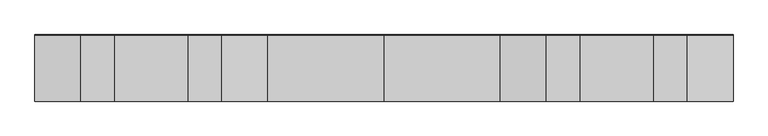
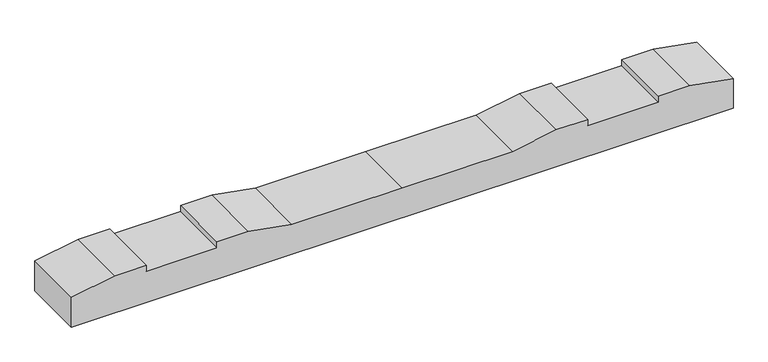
"""IFC4 building model written with IfcOpenShell, lengths in millimetres: proxy geometry, 轨枕-立面角度 : 轨枕-立面角度."""

from ifc_helpers import new_model, si_unit, frame, origin, place, context, project, spatial, polyline, outline, extrude, source, transform, mapped, element, save


def generic_models_72948029(model_context):
    return source(origin(), model_context, "Body", "SweptSolid", [
        extrude(outline(polyline([(0.0, 0.0), (2099.7669328, 0.0), (2099.7669328, -100.0206889), (1961.8834664, -124.4999999), (1861.8834664, -124.4999999), (1861.8834664, -104.5), (1637.8834664, -104.5), (1637.8834664, -124.4999999), (1537.8834664, -124.4999999), (1399.8834664, -100.0), (1049.8834664, -100.0), (699.8834664, -100.0), (561.8834664, -124.4999999), (461.8834664, -124.4999999), (461.8834664, -104.5), (237.8834664, -104.5), (237.8834664, -124.4999999), (137.8834664, -124.4999999), (0.0, -100.0206889), (0.0, 0.0)])), frame((-1049.8834664, -99.6293864, -104.8533994), z_axis=(0.0, 0.9999937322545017, 0.003540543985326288), x_axis=(1.0, 0.0, 0.0)), (0.0, 0.0, 1.0), 200.0),
    ])


if __name__ == "__main__":
    model = new_model("IFC4")
    model_context = context("Model", 3, world=origin())
    ifc_project = project(units=[si_unit("LENGTHUNIT", "METRE", prefix="MILLI")], contexts=[model_context])
    site = spatial("IfcSite", under=ifc_project)
    building = spatial("IfcBuilding", under=site)
    placement = place(None, origin())
    generic_models_shape = generic_models_72948029(model_context)
    element("IfcBuildingElementProxy", 1, Name="轨枕-立面角度 : 轨枕-立面角度", ObjectType="轨枕-立面角度 : 轨枕-立面角度", at=placement, inside=building, context=model_context, shape_type="MappedRepresentation", body=[
        mapped(generic_models_shape, transform((0.0, 0.0, 0.0), x_axis=(1.0, 0.0, 0.0), y_axis=(0.0, 1.0, 0.0), z_axis=(0.0, 0.0, 1.0))),
    ])
    save(model, "model.ifc")
